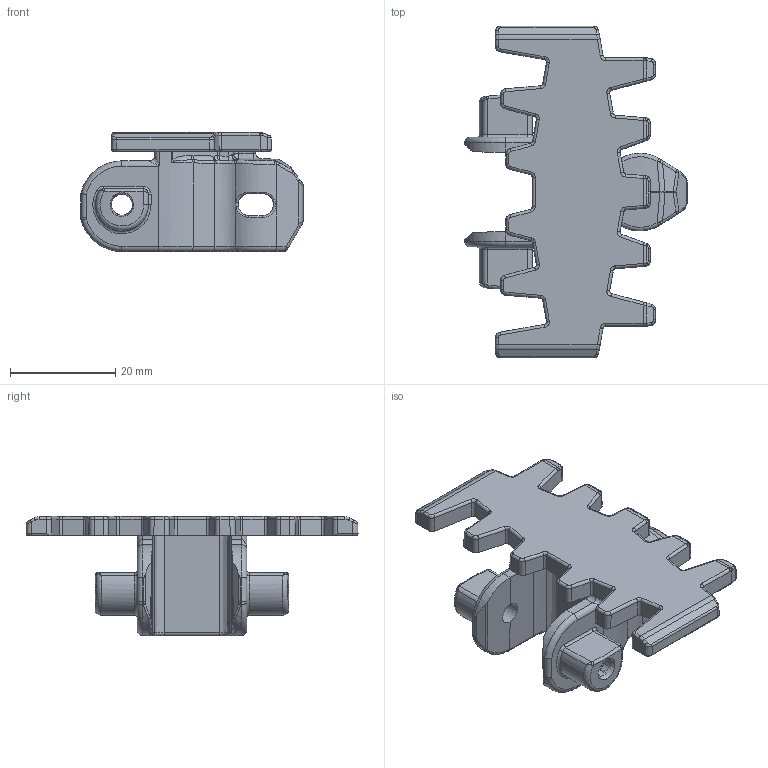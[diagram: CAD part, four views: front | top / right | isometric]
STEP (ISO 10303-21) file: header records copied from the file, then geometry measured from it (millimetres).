
FILE_DESCRIPTION(/* description */ ('Kettenglied FL'),/* implementation_level */ '2;1');
FILE_NAME(/* name */ 'T:\vdz0\Step Daten Website\modulflex FL-System\Kettenglieder\FLTL 63_FDA_78554.stp',/* time_stamp */ '2024-09-05T09:46:06+02:00',/* author */ ('lzb0'),/* organization */ ('MAG'),/* preprocessor_version */ 'ST-DEVELOPER v18.1',/* originating_system */ 'Autodesk Inventor 2021',/* authorisation */ '');
FILE_SCHEMA (('AUTOMOTIVE_DESIGN { 1 0 10303 214 3 1 1 }'));
Length unit declared in the file: millimetre
Products named in the file (1): 51087.00
Bounding box: 42.2 x 62.99 x 22.6 mm (x, y, z)
Volume: 10736.7 mm3; surface area: 8246.3 mm2
Topology: 2 solids, 2 shells, 638 faces, 1581 edges, 949 vertices
Faces by surface type: cylinder 224, bspline 200, plane 166, torus 28, cone 12, sphere 8
Full cylindrical faces by diameter (mm): 4 x2, 9 x1
Entity records: 23434 total; most frequent: CARTESIAN_POINT 8964, ORIENTED_EDGE 3142, DIRECTION 2804, EDGE_CURVE 1571, AXIS2_PLACEMENT_3D 1074, VERTEX_POINT 949, EDGE_LOOP 660, LINE 656
